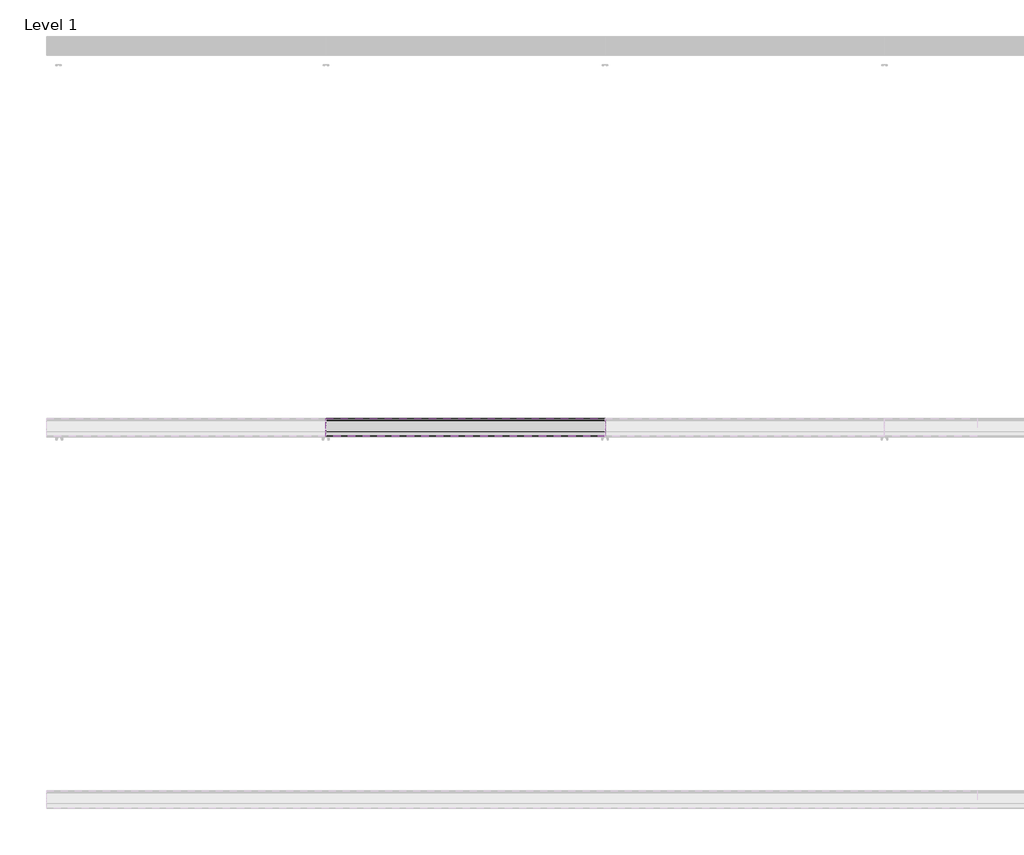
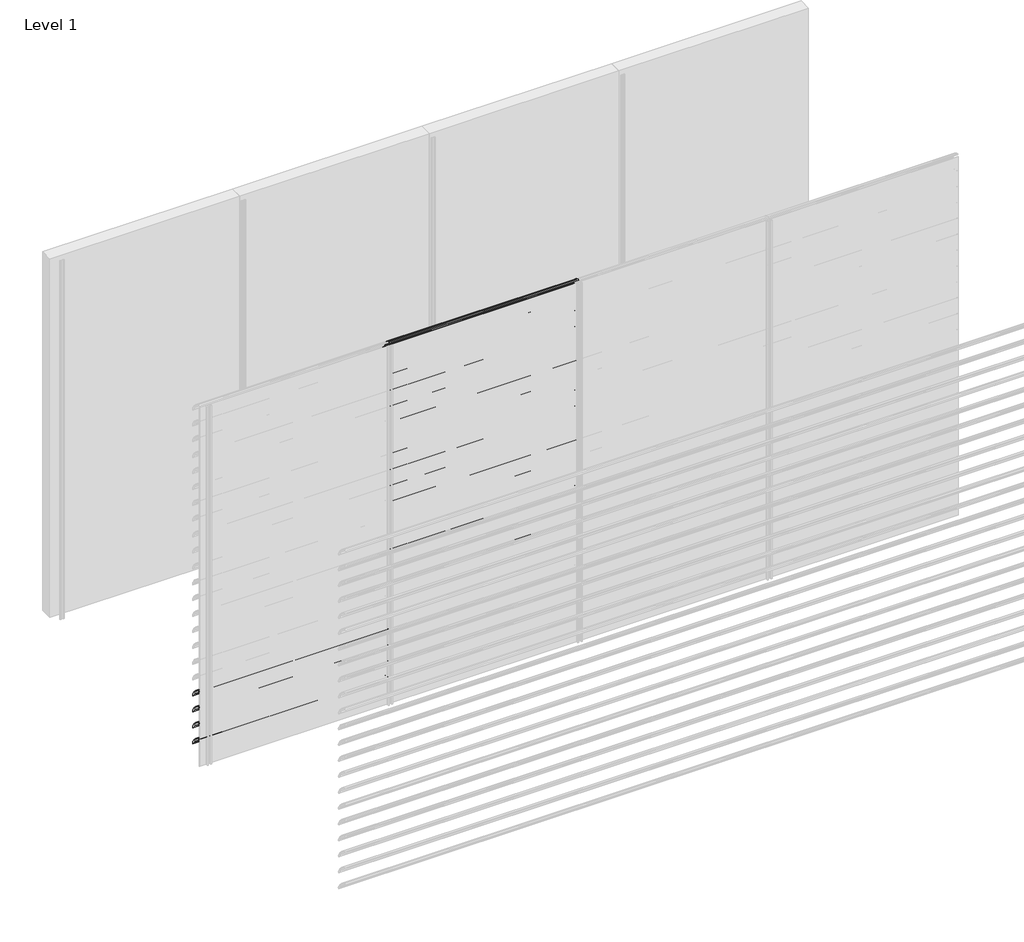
# One storey, part 49 of 57: 20 proxies.
"""IFC4 building model written with IfcOpenShell, lengths in millimetres."""

from ifc_helpers import new_model, si_unit, point, frame, frame_2d, origin, place, context, project, spatial, polyline, circle_curve, trimmed, segment, composite_curve, outline, extrude, element, save

model = new_model("IFC4")

# Units and contexts
model_context = context("Model", 3, world=origin())
ifc_project = project(units=[si_unit("LENGTHUNIT", "METRE", prefix="MILLI")], contexts=[model_context])

# Site, building, storey
site = spatial("IfcSite", under=ifc_project)
building = spatial("IfcBuilding", under=site)
storey = spatial("IfcBuildingStorey", under=building, Name="Level 1", Elevation=0.0)

# Proxies
placement = place(None, origin())
element("IfcBuildingElementProxy", 1, Name="Wall Sweeps", at=placement, inside=storey, context=model_context, shape_type="SweptSolid", body=[
    extrude(outline(composite_curve([segment(trimmed(circle_curve(frame_2d((-5993.7822526, 622.4913792)), 4.2177474), [point((-5989.6985606, 623.5462976))], [point((-5993.7822526, 626.7091266))], False, "CARTESIAN"), True, "CONTINUOUS"), segment(trimmed(circle_curve(frame_2d((-6018.7150834, 524.2536312)), 105.4456002), [point((-5993.7822526, 626.7091266))], [point((-5971.7914298, 618.6832099))], False, "CARTESIAN"), True, "CONTINUOUS"), segment(trimmed(circle_curve(frame_2d((-6061.7199745, 470.0352476)), 173.7335887), [point((-5971.7914298, 618.6832099))], [point((-5913.0720121, 559.9637922))], False, "CARTESIAN"), True, "CONTINUOUS"), segment(trimmed(circle_curve(frame_2d((-6004.9297178, 508.1860314)), 105.4456002), [point((-5913.0720121, 559.9637922))], [point((-5903.6249616, 537.4455765))], False, "CARTESIAN"), True, "CONTINUOUS"), segment(trimmed(circle_curve(frame_2d((-5907.809737, 536.3307305)), 4.3307305), [point((-5903.6249616, 537.4455765))], [point((-5909.0769196, 532.189538))], False, "CARTESIAN"), True, "CONTINUOUS"), segment(polyline([(-5909.0769196, 532.189538), (-5934.7401984, 556.9722783)]), True, "CONTINUOUS"), segment(trimmed(circle_curve(frame_2d((-5931.3879574, 559.2977626)), 4.079877), [point((-5934.7401984, 556.9722783))], [point((-5930.7310597, 563.3244091))], False, "CARTESIAN"), True, "CONTINUOUS"), segment(trimmed(circle_curve(frame_2d((-6014.6665585, 541.2544323)), 86.7885467), [point((-5930.7310597, 563.3244091))], [point((-5942.3028351, 589.1683485))], True, "CARTESIAN"), True, "CONTINUOUS"), segment(polyline([(-5942.3028351, 589.1683485), (-5940.7230099, 591.9046861)]), True, "CONTINUOUS"), segment(trimmed(circle_curve(frame_2d((-6061.7199745, 470.0352476)), 171.7335887), [point((-5940.7230099, 591.9046861))], [point((-5972.7555872, 616.9289618))], True, "CARTESIAN"), True, "CONTINUOUS"), segment(trimmed(circle_curve(frame_2d((-6018.7150834, 524.2536312)), 103.4456002), [point((-5972.7555872, 616.9289618))], [point((-5989.6985606, 623.5462976))], True, "CARTESIAN"), True, "CONTINUOUS")], self_intersect=False)), frame((0.0, 0.0, 0.0), z_axis=(1.0, 0.0, 0.0), x_axis=(0.0, 1.0, 0.0)), (0.0, 0.0, 1.0), 1500.0),
])
element("IfcBuildingElementProxy", 2, Name="Wall Sweeps", at=placement, inside=storey, context=model_context, shape_type="SweptSolid", body=[
    extrude(outline(composite_curve([segment(trimmed(circle_curve(frame_2d((-5993.7822526, 489.4913792)), 4.2177474), [point((-5989.6985606, 490.5462976))], [point((-5993.7822526, 493.7091266))], False, "CARTESIAN"), True, "CONTINUOUS"), segment(trimmed(circle_curve(frame_2d((-6018.7150834, 391.2536312)), 105.4456002), [point((-5993.7822526, 493.7091266))], [point((-5971.7914298, 485.6832099))], False, "CARTESIAN"), True, "CONTINUOUS"), segment(trimmed(circle_curve(frame_2d((-6061.7199745, 337.0352476)), 173.7335887), [point((-5971.7914298, 485.6832099))], [point((-5913.0720121, 426.9637922))], False, "CARTESIAN"), True, "CONTINUOUS"), segment(trimmed(circle_curve(frame_2d((-6004.9297178, 375.1860314)), 105.4456002), [point((-5913.0720121, 426.9637922))], [point((-5903.6249616, 404.4455765))], False, "CARTESIAN"), True, "CONTINUOUS"), segment(trimmed(circle_curve(frame_2d((-5907.809737, 403.3307305)), 4.3307305), [point((-5903.6249616, 404.4455765))], [point((-5909.0769196, 399.189538))], False, "CARTESIAN"), True, "CONTINUOUS"), segment(polyline([(-5909.0769196, 399.189538), (-5934.7401984, 423.9722783)]), True, "CONTINUOUS"), segment(trimmed(circle_curve(frame_2d((-5931.3879574, 426.2977626)), 4.079877), [point((-5934.7401984, 423.9722783))], [point((-5930.7310597, 430.3244091))], False, "CARTESIAN"), True, "CONTINUOUS"), segment(trimmed(circle_curve(frame_2d((-6014.6665585, 408.2544323)), 86.7885467), [point((-5930.7310597, 430.3244091))], [point((-5942.3028351, 456.1683485))], True, "CARTESIAN"), True, "CONTINUOUS"), segment(polyline([(-5942.3028351, 456.1683485), (-5940.7230099, 458.9046861)]), True, "CONTINUOUS"), segment(trimmed(circle_curve(frame_2d((-6061.7199745, 337.0352476)), 171.7335887), [point((-5940.7230099, 458.9046861))], [point((-5972.7555872, 483.9289618))], True, "CARTESIAN"), True, "CONTINUOUS"), segment(trimmed(circle_curve(frame_2d((-6018.7150834, 391.2536312)), 103.4456002), [point((-5972.7555872, 483.9289618))], [point((-5989.6985606, 490.5462976))], True, "CARTESIAN"), True, "CONTINUOUS")], self_intersect=False)), frame((0.0, 0.0, 0.0), z_axis=(1.0, 0.0, 0.0), x_axis=(0.0, 1.0, 0.0)), (0.0, 0.0, 1.0), 1500.0),
])
element("IfcBuildingElementProxy", 3, Name="Wall Sweeps", at=placement, inside=storey, context=model_context, shape_type="SweptSolid", body=[
    extrude(outline(composite_curve([segment(trimmed(circle_curve(frame_2d((-5993.7822526, 356.4913792)), 4.2177474), [point((-5989.6985606, 357.5462976))], [point((-5993.7822526, 360.7091266))], False, "CARTESIAN"), True, "CONTINUOUS"), segment(trimmed(circle_curve(frame_2d((-6018.7150834, 258.2536312)), 105.4456002), [point((-5993.7822526, 360.7091266))], [point((-5971.7914298, 352.6832099))], False, "CARTESIAN"), True, "CONTINUOUS"), segment(trimmed(circle_curve(frame_2d((-6061.7199745, 204.0352476)), 173.7335887), [point((-5971.7914298, 352.6832099))], [point((-5913.0720121, 293.9637922))], False, "CARTESIAN"), True, "CONTINUOUS"), segment(trimmed(circle_curve(frame_2d((-6004.9297178, 242.1860314)), 105.4456002), [point((-5913.0720121, 293.9637922))], [point((-5903.6249616, 271.4455765))], False, "CARTESIAN"), True, "CONTINUOUS"), segment(trimmed(circle_curve(frame_2d((-5907.809737, 270.3307305)), 4.3307305), [point((-5903.6249616, 271.4455765))], [point((-5909.0769196, 266.189538))], False, "CARTESIAN"), True, "CONTINUOUS"), segment(polyline([(-5909.0769196, 266.189538), (-5934.7401984, 290.9722783)]), True, "CONTINUOUS"), segment(trimmed(circle_curve(frame_2d((-5931.3879574, 293.2977626)), 4.079877), [point((-5934.7401984, 290.9722783))], [point((-5930.7310597, 297.3244091))], False, "CARTESIAN"), True, "CONTINUOUS"), segment(trimmed(circle_curve(frame_2d((-6014.6665585, 275.2544323)), 86.7885467), [point((-5930.7310597, 297.3244091))], [point((-5942.3028351, 323.1683485))], True, "CARTESIAN"), True, "CONTINUOUS"), segment(polyline([(-5942.3028351, 323.1683485), (-5940.7230099, 325.9046861)]), True, "CONTINUOUS"), segment(trimmed(circle_curve(frame_2d((-6061.7199745, 204.0352476)), 171.7335887), [point((-5940.7230099, 325.9046861))], [point((-5972.7555872, 350.9289618))], True, "CARTESIAN"), True, "CONTINUOUS"), segment(trimmed(circle_curve(frame_2d((-6018.7150834, 258.2536312)), 103.4456002), [point((-5972.7555872, 350.9289618))], [point((-5989.6985606, 357.5462976))], True, "CARTESIAN"), True, "CONTINUOUS")], self_intersect=False)), frame((0.0, 0.0, 0.0), z_axis=(1.0, 0.0, 0.0), x_axis=(0.0, 1.0, 0.0)), (0.0, 0.0, 1.0), 1500.0),
])
element("IfcBuildingElementProxy", 4, Name="Wall Sweeps", at=placement, inside=storey, context=model_context, shape_type="SweptSolid", body=[
    extrude(outline(composite_curve([segment(trimmed(circle_curve(frame_2d((-5993.7822526, 223.4913792)), 4.2177474), [point((-5989.6985606, 224.5462976))], [point((-5993.7822526, 227.7091266))], False, "CARTESIAN"), True, "CONTINUOUS"), segment(trimmed(circle_curve(frame_2d((-6018.7150834, 125.2536312)), 105.4456002), [point((-5993.7822526, 227.7091266))], [point((-5971.7914298, 219.6832099))], False, "CARTESIAN"), True, "CONTINUOUS"), segment(trimmed(circle_curve(frame_2d((-6061.7199745, 71.0352476)), 173.7335887), [point((-5971.7914298, 219.6832099))], [point((-5913.0720121, 160.9637922))], False, "CARTESIAN"), True, "CONTINUOUS"), segment(trimmed(circle_curve(frame_2d((-6004.9297178, 109.1860314)), 105.4456002), [point((-5913.0720121, 160.9637922))], [point((-5903.6249616, 138.4455765))], False, "CARTESIAN"), True, "CONTINUOUS"), segment(trimmed(circle_curve(frame_2d((-5907.809737, 137.3307305)), 4.3307305), [point((-5903.6249616, 138.4455765))], [point((-5909.0769196, 133.189538))], False, "CARTESIAN"), True, "CONTINUOUS"), segment(polyline([(-5909.0769196, 133.189538), (-5934.7401984, 157.9722783)]), True, "CONTINUOUS"), segment(trimmed(circle_curve(frame_2d((-5931.3879574, 160.2977626)), 4.079877), [point((-5934.7401984, 157.9722783))], [point((-5930.7310597, 164.3244091))], False, "CARTESIAN"), True, "CONTINUOUS"), segment(trimmed(circle_curve(frame_2d((-6014.6665585, 142.2544323)), 86.7885467), [point((-5930.7310597, 164.3244091))], [point((-5942.3028351, 190.1683485))], True, "CARTESIAN"), True, "CONTINUOUS"), segment(polyline([(-5942.3028351, 190.1683485), (-5940.7230099, 192.9046861)]), True, "CONTINUOUS"), segment(trimmed(circle_curve(frame_2d((-6061.7199745, 71.0352476)), 171.7335887), [point((-5940.7230099, 192.9046861))], [point((-5972.7555872, 217.9289618))], True, "CARTESIAN"), True, "CONTINUOUS"), segment(trimmed(circle_curve(frame_2d((-6018.7150834, 125.2536312)), 103.4456002), [point((-5972.7555872, 217.9289618))], [point((-5989.6985606, 224.5462976))], True, "CARTESIAN"), True, "CONTINUOUS")], self_intersect=False)), frame((0.0, 0.0, 0.0), z_axis=(1.0, 0.0, 0.0), x_axis=(0.0, 1.0, 0.0)), (0.0, 0.0, 1.0), 1500.0),
])
element("IfcBuildingElementProxy", 5, Name="Wall Sweeps", at=placement, inside=storey, context=model_context, shape_type="SweptSolid", body=[
    extrude(outline(composite_curve([segment(trimmed(circle_curve(frame_2d((-5993.7822526, 3016.4913792)), 4.2177474), [point((-5989.6985606, 3017.5462976))], [point((-5993.7822526, 3020.7091266))], False, "CARTESIAN"), True, "CONTINUOUS"), segment(trimmed(circle_curve(frame_2d((-6018.7150834, 2918.2536312)), 105.4456002), [point((-5993.7822526, 3020.7091266))], [point((-5971.7914298, 3012.6832099))], False, "CARTESIAN"), True, "CONTINUOUS"), segment(trimmed(circle_curve(frame_2d((-6061.7199745, 2864.0352476)), 173.7335887), [point((-5971.7914298, 3012.6832099))], [point((-5913.0720121, 2953.9637922))], False, "CARTESIAN"), True, "CONTINUOUS"), segment(trimmed(circle_curve(frame_2d((-6004.9297178, 2902.1860314)), 105.4456002), [point((-5913.0720121, 2953.9637922))], [point((-5903.6249616, 2931.4455765))], False, "CARTESIAN"), True, "CONTINUOUS"), segment(trimmed(circle_curve(frame_2d((-5907.809737, 2930.3307305)), 4.3307305), [point((-5903.6249616, 2931.4455765))], [point((-5909.0769196, 2926.189538))], False, "CARTESIAN"), True, "CONTINUOUS"), segment(polyline([(-5909.0769196, 2926.189538), (-5934.7401984, 2950.9722783)]), True, "CONTINUOUS"), segment(trimmed(circle_curve(frame_2d((-5931.3879574, 2953.2977626)), 4.079877), [point((-5934.7401984, 2950.9722783))], [point((-5930.7310597, 2957.3244091))], False, "CARTESIAN"), True, "CONTINUOUS"), segment(trimmed(circle_curve(frame_2d((-6014.6665585, 2935.2544323)), 86.7885467), [point((-5930.7310597, 2957.3244091))], [point((-5942.3028351, 2983.1683485))], True, "CARTESIAN"), True, "CONTINUOUS"), segment(polyline([(-5942.3028351, 2983.1683485), (-5940.7230099, 2985.9046861)]), True, "CONTINUOUS"), segment(trimmed(circle_curve(frame_2d((-6061.7199745, 2864.0352476)), 171.7335887), [point((-5940.7230099, 2985.9046861))], [point((-5972.7555872, 3010.9289618))], True, "CARTESIAN"), True, "CONTINUOUS"), segment(trimmed(circle_curve(frame_2d((-6018.7150834, 2918.2536312)), 103.4456002), [point((-5972.7555872, 3010.9289618))], [point((-5989.6985606, 3017.5462976))], True, "CARTESIAN"), True, "CONTINUOUS")], self_intersect=False)), frame((1500.0, 0.0, 0.0), z_axis=(1.0, 0.0, 0.0), x_axis=(0.0, 1.0, 0.0)), (0.0, 0.0, 1.0), 1500.0),
])
element("IfcBuildingElementProxy", 6, Name="Wall Sweeps", at=placement, inside=storey, context=model_context, shape_type="SweptSolid", body=[
    extrude(outline(composite_curve([segment(trimmed(circle_curve(frame_2d((-5993.7822526, 2883.4913792)), 4.2177474), [point((-5989.6985606, 2884.5462976))], [point((-5993.7822526, 2887.7091266))], False, "CARTESIAN"), True, "CONTINUOUS"), segment(trimmed(circle_curve(frame_2d((-6018.7150834, 2785.2536312)), 105.4456002), [point((-5993.7822526, 2887.7091266))], [point((-5971.7914298, 2879.6832099))], False, "CARTESIAN"), True, "CONTINUOUS"), segment(trimmed(circle_curve(frame_2d((-6061.7199745, 2731.0352476)), 173.7335887), [point((-5971.7914298, 2879.6832099))], [point((-5913.0720121, 2820.9637922))], False, "CARTESIAN"), True, "CONTINUOUS"), segment(trimmed(circle_curve(frame_2d((-6004.9297178, 2769.1860314)), 105.4456002), [point((-5913.0720121, 2820.9637922))], [point((-5903.6249616, 2798.4455765))], False, "CARTESIAN"), True, "CONTINUOUS"), segment(trimmed(circle_curve(frame_2d((-5907.809737, 2797.3307305)), 4.3307305), [point((-5903.6249616, 2798.4455765))], [point((-5909.0769196, 2793.189538))], False, "CARTESIAN"), True, "CONTINUOUS"), segment(polyline([(-5909.0769196, 2793.189538), (-5934.7401984, 2817.9722783)]), True, "CONTINUOUS"), segment(trimmed(circle_curve(frame_2d((-5931.3879574, 2820.2977626)), 4.079877), [point((-5934.7401984, 2817.9722783))], [point((-5930.7310597, 2824.3244091))], False, "CARTESIAN"), True, "CONTINUOUS"), segment(trimmed(circle_curve(frame_2d((-6014.6665585, 2802.2544323)), 86.7885467), [point((-5930.7310597, 2824.3244091))], [point((-5942.3028351, 2850.1683485))], True, "CARTESIAN"), True, "CONTINUOUS"), segment(polyline([(-5942.3028351, 2850.1683485), (-5940.7230099, 2852.9046861)]), True, "CONTINUOUS"), segment(trimmed(circle_curve(frame_2d((-6061.7199745, 2731.0352476)), 171.7335887), [point((-5940.7230099, 2852.9046861))], [point((-5972.7555872, 2877.9289618))], True, "CARTESIAN"), True, "CONTINUOUS"), segment(trimmed(circle_curve(frame_2d((-6018.7150834, 2785.2536312)), 103.4456002), [point((-5972.7555872, 2877.9289618))], [point((-5989.6985606, 2884.5462976))], True, "CARTESIAN"), True, "CONTINUOUS")], self_intersect=False)), frame((1500.0, 0.0, 0.0), z_axis=(1.0, 0.0, 0.0), x_axis=(0.0, 1.0, 0.0)), (0.0, 0.0, 1.0), 1500.0),
])
element("IfcBuildingElementProxy", 7, Name="Wall Sweeps", at=placement, inside=storey, context=model_context, shape_type="SweptSolid", body=[
    extrude(outline(composite_curve([segment(trimmed(circle_curve(frame_2d((-5993.7822526, 2750.4913792)), 4.2177474), [point((-5989.6985606, 2751.5462976))], [point((-5993.7822526, 2754.7091266))], False, "CARTESIAN"), True, "CONTINUOUS"), segment(trimmed(circle_curve(frame_2d((-6018.7150834, 2652.2536312)), 105.4456002), [point((-5993.7822526, 2754.7091266))], [point((-5971.7914298, 2746.6832099))], False, "CARTESIAN"), True, "CONTINUOUS"), segment(trimmed(circle_curve(frame_2d((-6061.7199745, 2598.0352476)), 173.7335887), [point((-5971.7914298, 2746.6832099))], [point((-5913.0720121, 2687.9637922))], False, "CARTESIAN"), True, "CONTINUOUS"), segment(trimmed(circle_curve(frame_2d((-6004.9297178, 2636.1860314)), 105.4456002), [point((-5913.0720121, 2687.9637922))], [point((-5903.6249616, 2665.4455765))], False, "CARTESIAN"), True, "CONTINUOUS"), segment(trimmed(circle_curve(frame_2d((-5907.809737, 2664.3307305)), 4.3307305), [point((-5903.6249616, 2665.4455765))], [point((-5909.0769196, 2660.189538))], False, "CARTESIAN"), True, "CONTINUOUS"), segment(polyline([(-5909.0769196, 2660.189538), (-5934.7401984, 2684.9722783)]), True, "CONTINUOUS"), segment(trimmed(circle_curve(frame_2d((-5931.3879574, 2687.2977626)), 4.079877), [point((-5934.7401984, 2684.9722783))], [point((-5930.7310597, 2691.3244091))], False, "CARTESIAN"), True, "CONTINUOUS"), segment(trimmed(circle_curve(frame_2d((-6014.6665585, 2669.2544323)), 86.7885467), [point((-5930.7310597, 2691.3244091))], [point((-5942.3028351, 2717.1683485))], True, "CARTESIAN"), True, "CONTINUOUS"), segment(polyline([(-5942.3028351, 2717.1683485), (-5940.7230099, 2719.9046861)]), True, "CONTINUOUS"), segment(trimmed(circle_curve(frame_2d((-6061.7199745, 2598.0352476)), 171.7335887), [point((-5940.7230099, 2719.9046861))], [point((-5972.7555872, 2744.9289618))], True, "CARTESIAN"), True, "CONTINUOUS"), segment(trimmed(circle_curve(frame_2d((-6018.7150834, 2652.2536312)), 103.4456002), [point((-5972.7555872, 2744.9289618))], [point((-5989.6985606, 2751.5462976))], True, "CARTESIAN"), True, "CONTINUOUS")], self_intersect=False)), frame((1500.0, 0.0, 0.0), z_axis=(1.0, 0.0, 0.0), x_axis=(0.0, 1.0, 0.0)), (0.0, 0.0, 1.0), 1500.0),
])
element("IfcBuildingElementProxy", 8, Name="Wall Sweeps", at=placement, inside=storey, context=model_context, shape_type="SweptSolid", body=[
    extrude(outline(composite_curve([segment(trimmed(circle_curve(frame_2d((-5993.7822526, 2617.4913792)), 4.2177474), [point((-5989.6985606, 2618.5462976))], [point((-5993.7822526, 2621.7091266))], False, "CARTESIAN"), True, "CONTINUOUS"), segment(trimmed(circle_curve(frame_2d((-6018.7150834, 2519.2536312)), 105.4456002), [point((-5993.7822526, 2621.7091266))], [point((-5971.7914298, 2613.6832099))], False, "CARTESIAN"), True, "CONTINUOUS"), segment(trimmed(circle_curve(frame_2d((-6061.7199745, 2465.0352476)), 173.7335887), [point((-5971.7914298, 2613.6832099))], [point((-5913.0720121, 2554.9637922))], False, "CARTESIAN"), True, "CONTINUOUS"), segment(trimmed(circle_curve(frame_2d((-6004.9297178, 2503.1860314)), 105.4456002), [point((-5913.0720121, 2554.9637922))], [point((-5903.6249616, 2532.4455765))], False, "CARTESIAN"), True, "CONTINUOUS"), segment(trimmed(circle_curve(frame_2d((-5907.809737, 2531.3307305)), 4.3307305), [point((-5903.6249616, 2532.4455765))], [point((-5909.0769196, 2527.189538))], False, "CARTESIAN"), True, "CONTINUOUS"), segment(polyline([(-5909.0769196, 2527.189538), (-5934.7401984, 2551.9722783)]), True, "CONTINUOUS"), segment(trimmed(circle_curve(frame_2d((-5931.3879574, 2554.2977626)), 4.079877), [point((-5934.7401984, 2551.9722783))], [point((-5930.7310597, 2558.3244091))], False, "CARTESIAN"), True, "CONTINUOUS"), segment(trimmed(circle_curve(frame_2d((-6014.6665585, 2536.2544323)), 86.7885467), [point((-5930.7310597, 2558.3244091))], [point((-5942.3028351, 2584.1683485))], True, "CARTESIAN"), True, "CONTINUOUS"), segment(polyline([(-5942.3028351, 2584.1683485), (-5940.7230099, 2586.9046861)]), True, "CONTINUOUS"), segment(trimmed(circle_curve(frame_2d((-6061.7199745, 2465.0352476)), 171.7335887), [point((-5940.7230099, 2586.9046861))], [point((-5972.7555872, 2611.9289618))], True, "CARTESIAN"), True, "CONTINUOUS"), segment(trimmed(circle_curve(frame_2d((-6018.7150834, 2519.2536312)), 103.4456002), [point((-5972.7555872, 2611.9289618))], [point((-5989.6985606, 2618.5462976))], True, "CARTESIAN"), True, "CONTINUOUS")], self_intersect=False)), frame((1500.0, 0.0, 0.0), z_axis=(1.0, 0.0, 0.0), x_axis=(0.0, 1.0, 0.0)), (0.0, 0.0, 1.0), 1500.0),
])
element("IfcBuildingElementProxy", 9, Name="Wall Sweeps", at=placement, inside=storey, context=model_context, shape_type="SweptSolid", body=[
    extrude(outline(composite_curve([segment(trimmed(circle_curve(frame_2d((-5993.7822526, 2484.4913792)), 4.2177474), [point((-5989.6985606, 2485.5462976))], [point((-5993.7822526, 2488.7091266))], False, "CARTESIAN"), True, "CONTINUOUS"), segment(trimmed(circle_curve(frame_2d((-6018.7150834, 2386.2536312)), 105.4456002), [point((-5993.7822526, 2488.7091266))], [point((-5971.7914298, 2480.6832099))], False, "CARTESIAN"), True, "CONTINUOUS"), segment(trimmed(circle_curve(frame_2d((-6061.7199745, 2332.0352476)), 173.7335887), [point((-5971.7914298, 2480.6832099))], [point((-5913.0720121, 2421.9637922))], False, "CARTESIAN"), True, "CONTINUOUS"), segment(trimmed(circle_curve(frame_2d((-6004.9297178, 2370.1860314)), 105.4456002), [point((-5913.0720121, 2421.9637922))], [point((-5903.6249616, 2399.4455765))], False, "CARTESIAN"), True, "CONTINUOUS"), segment(trimmed(circle_curve(frame_2d((-5907.809737, 2398.3307305)), 4.3307305), [point((-5903.6249616, 2399.4455765))], [point((-5909.0769196, 2394.189538))], False, "CARTESIAN"), True, "CONTINUOUS"), segment(polyline([(-5909.0769196, 2394.189538), (-5934.7401984, 2418.9722783)]), True, "CONTINUOUS"), segment(trimmed(circle_curve(frame_2d((-5931.3879574, 2421.2977626)), 4.079877), [point((-5934.7401984, 2418.9722783))], [point((-5930.7310597, 2425.3244091))], False, "CARTESIAN"), True, "CONTINUOUS"), segment(trimmed(circle_curve(frame_2d((-6014.6665585, 2403.2544323)), 86.7885467), [point((-5930.7310597, 2425.3244091))], [point((-5942.3028351, 2451.1683485))], True, "CARTESIAN"), True, "CONTINUOUS"), segment(polyline([(-5942.3028351, 2451.1683485), (-5940.7230099, 2453.9046861)]), True, "CONTINUOUS"), segment(trimmed(circle_curve(frame_2d((-6061.7199745, 2332.0352476)), 171.7335887), [point((-5940.7230099, 2453.9046861))], [point((-5972.7555872, 2478.9289618))], True, "CARTESIAN"), True, "CONTINUOUS"), segment(trimmed(circle_curve(frame_2d((-6018.7150834, 2386.2536312)), 103.4456002), [point((-5972.7555872, 2478.9289618))], [point((-5989.6985606, 2485.5462976))], True, "CARTESIAN"), True, "CONTINUOUS")], self_intersect=False)), frame((1500.0, 0.0, 0.0), z_axis=(1.0, 0.0, 0.0), x_axis=(0.0, 1.0, 0.0)), (0.0, 0.0, 1.0), 1500.0),
])
element("IfcBuildingElementProxy", 10, Name="Wall Sweeps", at=placement, inside=storey, context=model_context, shape_type="SweptSolid", body=[
    extrude(outline(composite_curve([segment(trimmed(circle_curve(frame_2d((-5993.7822526, 2351.4913792)), 4.2177474), [point((-5989.6985606, 2352.5462976))], [point((-5993.7822526, 2355.7091266))], False, "CARTESIAN"), True, "CONTINUOUS"), segment(trimmed(circle_curve(frame_2d((-6018.7150834, 2253.2536312)), 105.4456002), [point((-5993.7822526, 2355.7091266))], [point((-5971.7914298, 2347.6832099))], False, "CARTESIAN"), True, "CONTINUOUS"), segment(trimmed(circle_curve(frame_2d((-6061.7199745, 2199.0352476)), 173.7335887), [point((-5971.7914298, 2347.6832099))], [point((-5913.0720121, 2288.9637922))], False, "CARTESIAN"), True, "CONTINUOUS"), segment(trimmed(circle_curve(frame_2d((-6004.9297178, 2237.1860314)), 105.4456002), [point((-5913.0720121, 2288.9637922))], [point((-5903.6249616, 2266.4455765))], False, "CARTESIAN"), True, "CONTINUOUS"), segment(trimmed(circle_curve(frame_2d((-5907.809737, 2265.3307305)), 4.3307305), [point((-5903.6249616, 2266.4455765))], [point((-5909.0769196, 2261.189538))], False, "CARTESIAN"), True, "CONTINUOUS"), segment(polyline([(-5909.0769196, 2261.189538), (-5934.7401984, 2285.9722783)]), True, "CONTINUOUS"), segment(trimmed(circle_curve(frame_2d((-5931.3879574, 2288.2977626)), 4.079877), [point((-5934.7401984, 2285.9722783))], [point((-5930.7310597, 2292.3244091))], False, "CARTESIAN"), True, "CONTINUOUS"), segment(trimmed(circle_curve(frame_2d((-6014.6665585, 2270.2544323)), 86.7885467), [point((-5930.7310597, 2292.3244091))], [point((-5942.3028351, 2318.1683485))], True, "CARTESIAN"), True, "CONTINUOUS"), segment(polyline([(-5942.3028351, 2318.1683485), (-5940.7230099, 2320.9046861)]), True, "CONTINUOUS"), segment(trimmed(circle_curve(frame_2d((-6061.7199745, 2199.0352476)), 171.7335887), [point((-5940.7230099, 2320.9046861))], [point((-5972.7555872, 2345.9289618))], True, "CARTESIAN"), True, "CONTINUOUS"), segment(trimmed(circle_curve(frame_2d((-6018.7150834, 2253.2536312)), 103.4456002), [point((-5972.7555872, 2345.9289618))], [point((-5989.6985606, 2352.5462976))], True, "CARTESIAN"), True, "CONTINUOUS")], self_intersect=False)), frame((1500.0, 0.0, 0.0), z_axis=(1.0, 0.0, 0.0), x_axis=(0.0, 1.0, 0.0)), (0.0, 0.0, 1.0), 1500.0),
])
element("IfcBuildingElementProxy", 11, Name="Wall Sweeps", at=placement, inside=storey, context=model_context, shape_type="SweptSolid", body=[
    extrude(outline(composite_curve([segment(trimmed(circle_curve(frame_2d((-5993.7822526, 2218.4913792)), 4.2177474), [point((-5989.6985606, 2219.5462976))], [point((-5993.7822526, 2222.7091266))], False, "CARTESIAN"), True, "CONTINUOUS"), segment(trimmed(circle_curve(frame_2d((-6018.7150834, 2120.2536312)), 105.4456002), [point((-5993.7822526, 2222.7091266))], [point((-5971.7914298, 2214.6832099))], False, "CARTESIAN"), True, "CONTINUOUS"), segment(trimmed(circle_curve(frame_2d((-6061.7199745, 2066.0352476)), 173.7335887), [point((-5971.7914298, 2214.6832099))], [point((-5913.0720121, 2155.9637922))], False, "CARTESIAN"), True, "CONTINUOUS"), segment(trimmed(circle_curve(frame_2d((-6004.9297178, 2104.1860314)), 105.4456002), [point((-5913.0720121, 2155.9637922))], [point((-5903.6249616, 2133.4455765))], False, "CARTESIAN"), True, "CONTINUOUS"), segment(trimmed(circle_curve(frame_2d((-5907.809737, 2132.3307305)), 4.3307305), [point((-5903.6249616, 2133.4455765))], [point((-5909.0769196, 2128.189538))], False, "CARTESIAN"), True, "CONTINUOUS"), segment(polyline([(-5909.0769196, 2128.189538), (-5934.7401984, 2152.9722783)]), True, "CONTINUOUS"), segment(trimmed(circle_curve(frame_2d((-5931.3879574, 2155.2977626)), 4.079877), [point((-5934.7401984, 2152.9722783))], [point((-5930.7310597, 2159.3244091))], False, "CARTESIAN"), True, "CONTINUOUS"), segment(trimmed(circle_curve(frame_2d((-6014.6665585, 2137.2544323)), 86.7885467), [point((-5930.7310597, 2159.3244091))], [point((-5942.3028351, 2185.1683485))], True, "CARTESIAN"), True, "CONTINUOUS"), segment(polyline([(-5942.3028351, 2185.1683485), (-5940.7230099, 2187.9046861)]), True, "CONTINUOUS"), segment(trimmed(circle_curve(frame_2d((-6061.7199745, 2066.0352476)), 171.7335887), [point((-5940.7230099, 2187.9046861))], [point((-5972.7555872, 2212.9289618))], True, "CARTESIAN"), True, "CONTINUOUS"), segment(trimmed(circle_curve(frame_2d((-6018.7150834, 2120.2536312)), 103.4456002), [point((-5972.7555872, 2212.9289618))], [point((-5989.6985606, 2219.5462976))], True, "CARTESIAN"), True, "CONTINUOUS")], self_intersect=False)), frame((1500.0, 0.0, 0.0), z_axis=(1.0, 0.0, 0.0), x_axis=(0.0, 1.0, 0.0)), (0.0, 0.0, 1.0), 1500.0),
])
element("IfcBuildingElementProxy", 12, Name="Wall Sweeps", at=placement, inside=storey, context=model_context, shape_type="SweptSolid", body=[
    extrude(outline(composite_curve([segment(trimmed(circle_curve(frame_2d((-5993.7822526, 2085.4913792)), 4.2177474), [point((-5989.6985606, 2086.5462976))], [point((-5993.7822526, 2089.7091266))], False, "CARTESIAN"), True, "CONTINUOUS"), segment(trimmed(circle_curve(frame_2d((-6018.7150834, 1987.2536312)), 105.4456002), [point((-5993.7822526, 2089.7091266))], [point((-5971.7914298, 2081.6832099))], False, "CARTESIAN"), True, "CONTINUOUS"), segment(trimmed(circle_curve(frame_2d((-6061.7199745, 1933.0352476)), 173.7335887), [point((-5971.7914298, 2081.6832099))], [point((-5913.0720121, 2022.9637922))], False, "CARTESIAN"), True, "CONTINUOUS"), segment(trimmed(circle_curve(frame_2d((-6004.9297178, 1971.1860314)), 105.4456002), [point((-5913.0720121, 2022.9637922))], [point((-5903.6249616, 2000.4455765))], False, "CARTESIAN"), True, "CONTINUOUS"), segment(trimmed(circle_curve(frame_2d((-5907.809737, 1999.3307305)), 4.3307305), [point((-5903.6249616, 2000.4455765))], [point((-5909.0769196, 1995.189538))], False, "CARTESIAN"), True, "CONTINUOUS"), segment(polyline([(-5909.0769196, 1995.189538), (-5934.7401984, 2019.9722783)]), True, "CONTINUOUS"), segment(trimmed(circle_curve(frame_2d((-5931.3879574, 2022.2977626)), 4.079877), [point((-5934.7401984, 2019.9722783))], [point((-5930.7310597, 2026.3244091))], False, "CARTESIAN"), True, "CONTINUOUS"), segment(trimmed(circle_curve(frame_2d((-6014.6665585, 2004.2544323)), 86.7885467), [point((-5930.7310597, 2026.3244091))], [point((-5942.3028351, 2052.1683485))], True, "CARTESIAN"), True, "CONTINUOUS"), segment(polyline([(-5942.3028351, 2052.1683485), (-5940.7230099, 2054.9046861)]), True, "CONTINUOUS"), segment(trimmed(circle_curve(frame_2d((-6061.7199745, 1933.0352476)), 171.7335887), [point((-5940.7230099, 2054.9046861))], [point((-5972.7555872, 2079.9289618))], True, "CARTESIAN"), True, "CONTINUOUS"), segment(trimmed(circle_curve(frame_2d((-6018.7150834, 1987.2536312)), 103.4456002), [point((-5972.7555872, 2079.9289618))], [point((-5989.6985606, 2086.5462976))], True, "CARTESIAN"), True, "CONTINUOUS")], self_intersect=False)), frame((1500.0, 0.0, 0.0), z_axis=(1.0, 0.0, 0.0), x_axis=(0.0, 1.0, 0.0)), (0.0, 0.0, 1.0), 1500.0),
])
element("IfcBuildingElementProxy", 13, Name="Wall Sweeps", at=placement, inside=storey, context=model_context, shape_type="SweptSolid", body=[
    extrude(outline(composite_curve([segment(trimmed(circle_curve(frame_2d((-5993.7822526, 1952.4913792)), 4.2177474), [point((-5989.6985606, 1953.5462976))], [point((-5993.7822526, 1956.7091266))], False, "CARTESIAN"), True, "CONTINUOUS"), segment(trimmed(circle_curve(frame_2d((-6018.7150834, 1854.2536312)), 105.4456002), [point((-5993.7822526, 1956.7091266))], [point((-5971.7914298, 1948.6832099))], False, "CARTESIAN"), True, "CONTINUOUS"), segment(trimmed(circle_curve(frame_2d((-6061.7199745, 1800.0352476)), 173.7335887), [point((-5971.7914298, 1948.6832099))], [point((-5913.0720121, 1889.9637922))], False, "CARTESIAN"), True, "CONTINUOUS"), segment(trimmed(circle_curve(frame_2d((-6004.9297178, 1838.1860314)), 105.4456002), [point((-5913.0720121, 1889.9637922))], [point((-5903.6249616, 1867.4455765))], False, "CARTESIAN"), True, "CONTINUOUS"), segment(trimmed(circle_curve(frame_2d((-5907.809737, 1866.3307305)), 4.3307305), [point((-5903.6249616, 1867.4455765))], [point((-5909.0769196, 1862.189538))], False, "CARTESIAN"), True, "CONTINUOUS"), segment(polyline([(-5909.0769196, 1862.189538), (-5934.7401984, 1886.9722783)]), True, "CONTINUOUS"), segment(trimmed(circle_curve(frame_2d((-5931.3879574, 1889.2977626)), 4.079877), [point((-5934.7401984, 1886.9722783))], [point((-5930.7310597, 1893.3244091))], False, "CARTESIAN"), True, "CONTINUOUS"), segment(trimmed(circle_curve(frame_2d((-6014.6665585, 1871.2544323)), 86.7885467), [point((-5930.7310597, 1893.3244091))], [point((-5942.3028351, 1919.1683485))], True, "CARTESIAN"), True, "CONTINUOUS"), segment(polyline([(-5942.3028351, 1919.1683485), (-5940.7230099, 1921.9046861)]), True, "CONTINUOUS"), segment(trimmed(circle_curve(frame_2d((-6061.7199745, 1800.0352476)), 171.7335887), [point((-5940.7230099, 1921.9046861))], [point((-5972.7555872, 1946.9289618))], True, "CARTESIAN"), True, "CONTINUOUS"), segment(trimmed(circle_curve(frame_2d((-6018.7150834, 1854.2536312)), 103.4456002), [point((-5972.7555872, 1946.9289618))], [point((-5989.6985606, 1953.5462976))], True, "CARTESIAN"), True, "CONTINUOUS")], self_intersect=False)), frame((1500.0, 0.0, 0.0), z_axis=(1.0, 0.0, 0.0), x_axis=(0.0, 1.0, 0.0)), (0.0, 0.0, 1.0), 1500.0),
])
element("IfcBuildingElementProxy", 14, Name="Wall Sweeps", at=placement, inside=storey, context=model_context, shape_type="SweptSolid", body=[
    extrude(outline(composite_curve([segment(trimmed(circle_curve(frame_2d((-5993.7822526, 1819.4913792)), 4.2177474), [point((-5989.6985606, 1820.5462976))], [point((-5993.7822526, 1823.7091266))], False, "CARTESIAN"), True, "CONTINUOUS"), segment(trimmed(circle_curve(frame_2d((-6018.7150834, 1721.2536312)), 105.4456002), [point((-5993.7822526, 1823.7091266))], [point((-5971.7914298, 1815.6832099))], False, "CARTESIAN"), True, "CONTINUOUS"), segment(trimmed(circle_curve(frame_2d((-6061.7199745, 1667.0352476)), 173.7335887), [point((-5971.7914298, 1815.6832099))], [point((-5913.0720121, 1756.9637922))], False, "CARTESIAN"), True, "CONTINUOUS"), segment(trimmed(circle_curve(frame_2d((-6004.9297178, 1705.1860314)), 105.4456002), [point((-5913.0720121, 1756.9637922))], [point((-5903.6249616, 1734.4455765))], False, "CARTESIAN"), True, "CONTINUOUS"), segment(trimmed(circle_curve(frame_2d((-5907.809737, 1733.3307305)), 4.3307305), [point((-5903.6249616, 1734.4455765))], [point((-5909.0769196, 1729.189538))], False, "CARTESIAN"), True, "CONTINUOUS"), segment(polyline([(-5909.0769196, 1729.189538), (-5934.7401984, 1753.9722783)]), True, "CONTINUOUS"), segment(trimmed(circle_curve(frame_2d((-5931.3879574, 1756.2977626)), 4.079877), [point((-5934.7401984, 1753.9722783))], [point((-5930.7310597, 1760.3244091))], False, "CARTESIAN"), True, "CONTINUOUS"), segment(trimmed(circle_curve(frame_2d((-6014.6665585, 1738.2544323)), 86.7885467), [point((-5930.7310597, 1760.3244091))], [point((-5942.3028351, 1786.1683485))], True, "CARTESIAN"), True, "CONTINUOUS"), segment(polyline([(-5942.3028351, 1786.1683485), (-5940.7230099, 1788.9046861)]), True, "CONTINUOUS"), segment(trimmed(circle_curve(frame_2d((-6061.7199745, 1667.0352476)), 171.7335887), [point((-5940.7230099, 1788.9046861))], [point((-5972.7555872, 1813.9289618))], True, "CARTESIAN"), True, "CONTINUOUS"), segment(trimmed(circle_curve(frame_2d((-6018.7150834, 1721.2536312)), 103.4456002), [point((-5972.7555872, 1813.9289618))], [point((-5989.6985606, 1820.5462976))], True, "CARTESIAN"), True, "CONTINUOUS")], self_intersect=False)), frame((1500.0, 0.0, 0.0), z_axis=(1.0, 0.0, 0.0), x_axis=(0.0, 1.0, 0.0)), (0.0, 0.0, 1.0), 1500.0),
])
element("IfcBuildingElementProxy", 15, Name="Wall Sweeps", at=placement, inside=storey, context=model_context, shape_type="SweptSolid", body=[
    extrude(outline(composite_curve([segment(trimmed(circle_curve(frame_2d((-5993.7822526, 1686.4913792)), 4.2177474), [point((-5989.6985606, 1687.5462976))], [point((-5993.7822526, 1690.7091266))], False, "CARTESIAN"), True, "CONTINUOUS"), segment(trimmed(circle_curve(frame_2d((-6018.7150834, 1588.2536312)), 105.4456002), [point((-5993.7822526, 1690.7091266))], [point((-5971.7914298, 1682.6832099))], False, "CARTESIAN"), True, "CONTINUOUS"), segment(trimmed(circle_curve(frame_2d((-6061.7199745, 1534.0352476)), 173.7335887), [point((-5971.7914298, 1682.6832099))], [point((-5913.0720121, 1623.9637922))], False, "CARTESIAN"), True, "CONTINUOUS"), segment(trimmed(circle_curve(frame_2d((-6004.9297178, 1572.1860314)), 105.4456002), [point((-5913.0720121, 1623.9637922))], [point((-5903.6249616, 1601.4455765))], False, "CARTESIAN"), True, "CONTINUOUS"), segment(trimmed(circle_curve(frame_2d((-5907.809737, 1600.3307305)), 4.3307305), [point((-5903.6249616, 1601.4455765))], [point((-5909.0769196, 1596.189538))], False, "CARTESIAN"), True, "CONTINUOUS"), segment(polyline([(-5909.0769196, 1596.189538), (-5934.7401984, 1620.9722783)]), True, "CONTINUOUS"), segment(trimmed(circle_curve(frame_2d((-5931.3879574, 1623.2977626)), 4.079877), [point((-5934.7401984, 1620.9722783))], [point((-5930.7310597, 1627.3244091))], False, "CARTESIAN"), True, "CONTINUOUS"), segment(trimmed(circle_curve(frame_2d((-6014.6665585, 1605.2544323)), 86.7885467), [point((-5930.7310597, 1627.3244091))], [point((-5942.3028351, 1653.1683485))], True, "CARTESIAN"), True, "CONTINUOUS"), segment(polyline([(-5942.3028351, 1653.1683485), (-5940.7230099, 1655.9046861)]), True, "CONTINUOUS"), segment(trimmed(circle_curve(frame_2d((-6061.7199745, 1534.0352476)), 171.7335887), [point((-5940.7230099, 1655.9046861))], [point((-5972.7555872, 1680.9289618))], True, "CARTESIAN"), True, "CONTINUOUS"), segment(trimmed(circle_curve(frame_2d((-6018.7150834, 1588.2536312)), 103.4456002), [point((-5972.7555872, 1680.9289618))], [point((-5989.6985606, 1687.5462976))], True, "CARTESIAN"), True, "CONTINUOUS")], self_intersect=False)), frame((1500.0, 0.0, 0.0), z_axis=(1.0, 0.0, 0.0), x_axis=(0.0, 1.0, 0.0)), (0.0, 0.0, 1.0), 1500.0),
])
element("IfcBuildingElementProxy", 16, Name="Wall Sweeps", at=placement, inside=storey, context=model_context, shape_type="SweptSolid", body=[
    extrude(outline(composite_curve([segment(trimmed(circle_curve(frame_2d((-5993.7822526, 1553.4913792)), 4.2177474), [point((-5989.6985606, 1554.5462976))], [point((-5993.7822526, 1557.7091266))], False, "CARTESIAN"), True, "CONTINUOUS"), segment(trimmed(circle_curve(frame_2d((-6018.7150834, 1455.2536312)), 105.4456002), [point((-5993.7822526, 1557.7091266))], [point((-5971.7914298, 1549.6832099))], False, "CARTESIAN"), True, "CONTINUOUS"), segment(trimmed(circle_curve(frame_2d((-6061.7199745, 1401.0352476)), 173.7335887), [point((-5971.7914298, 1549.6832099))], [point((-5913.0720121, 1490.9637922))], False, "CARTESIAN"), True, "CONTINUOUS"), segment(trimmed(circle_curve(frame_2d((-6004.9297178, 1439.1860314)), 105.4456002), [point((-5913.0720121, 1490.9637922))], [point((-5903.6249616, 1468.4455765))], False, "CARTESIAN"), True, "CONTINUOUS"), segment(trimmed(circle_curve(frame_2d((-5907.809737, 1467.3307305)), 4.3307305), [point((-5903.6249616, 1468.4455765))], [point((-5909.0769196, 1463.189538))], False, "CARTESIAN"), True, "CONTINUOUS"), segment(polyline([(-5909.0769196, 1463.189538), (-5934.7401984, 1487.9722783)]), True, "CONTINUOUS"), segment(trimmed(circle_curve(frame_2d((-5931.3879574, 1490.2977626)), 4.079877), [point((-5934.7401984, 1487.9722783))], [point((-5930.7310597, 1494.3244091))], False, "CARTESIAN"), True, "CONTINUOUS"), segment(trimmed(circle_curve(frame_2d((-6014.6665585, 1472.2544323)), 86.7885467), [point((-5930.7310597, 1494.3244091))], [point((-5942.3028351, 1520.1683485))], True, "CARTESIAN"), True, "CONTINUOUS"), segment(polyline([(-5942.3028351, 1520.1683485), (-5940.7230099, 1522.9046861)]), True, "CONTINUOUS"), segment(trimmed(circle_curve(frame_2d((-6061.7199745, 1401.0352476)), 171.7335887), [point((-5940.7230099, 1522.9046861))], [point((-5972.7555872, 1547.9289618))], True, "CARTESIAN"), True, "CONTINUOUS"), segment(trimmed(circle_curve(frame_2d((-6018.7150834, 1455.2536312)), 103.4456002), [point((-5972.7555872, 1547.9289618))], [point((-5989.6985606, 1554.5462976))], True, "CARTESIAN"), True, "CONTINUOUS")], self_intersect=False)), frame((1500.0, 0.0, 0.0), z_axis=(1.0, 0.0, 0.0), x_axis=(0.0, 1.0, 0.0)), (0.0, 0.0, 1.0), 1500.0),
])
element("IfcBuildingElementProxy", 17, Name="Wall Sweeps", at=placement, inside=storey, context=model_context, shape_type="SweptSolid", body=[
    extrude(outline(composite_curve([segment(trimmed(circle_curve(frame_2d((-5993.7822526, 1420.4913792)), 4.2177474), [point((-5989.6985606, 1421.5462976))], [point((-5993.7822526, 1424.7091266))], False, "CARTESIAN"), True, "CONTINUOUS"), segment(trimmed(circle_curve(frame_2d((-6018.7150834, 1322.2536312)), 105.4456002), [point((-5993.7822526, 1424.7091266))], [point((-5971.7914298, 1416.6832099))], False, "CARTESIAN"), True, "CONTINUOUS"), segment(trimmed(circle_curve(frame_2d((-6061.7199745, 1268.0352476)), 173.7335887), [point((-5971.7914298, 1416.6832099))], [point((-5913.0720121, 1357.9637922))], False, "CARTESIAN"), True, "CONTINUOUS"), segment(trimmed(circle_curve(frame_2d((-6004.9297178, 1306.1860314)), 105.4456002), [point((-5913.0720121, 1357.9637922))], [point((-5903.6249616, 1335.4455765))], False, "CARTESIAN"), True, "CONTINUOUS"), segment(trimmed(circle_curve(frame_2d((-5907.809737, 1334.3307305)), 4.3307305), [point((-5903.6249616, 1335.4455765))], [point((-5909.0769196, 1330.189538))], False, "CARTESIAN"), True, "CONTINUOUS"), segment(polyline([(-5909.0769196, 1330.189538), (-5934.7401984, 1354.9722783)]), True, "CONTINUOUS"), segment(trimmed(circle_curve(frame_2d((-5931.3879574, 1357.2977626)), 4.079877), [point((-5934.7401984, 1354.9722783))], [point((-5930.7310597, 1361.3244091))], False, "CARTESIAN"), True, "CONTINUOUS"), segment(trimmed(circle_curve(frame_2d((-6014.6665585, 1339.2544323)), 86.7885467), [point((-5930.7310597, 1361.3244091))], [point((-5942.3028351, 1387.1683485))], True, "CARTESIAN"), True, "CONTINUOUS"), segment(polyline([(-5942.3028351, 1387.1683485), (-5940.7230099, 1389.9046861)]), True, "CONTINUOUS"), segment(trimmed(circle_curve(frame_2d((-6061.7199745, 1268.0352476)), 171.7335887), [point((-5940.7230099, 1389.9046861))], [point((-5972.7555872, 1414.9289618))], True, "CARTESIAN"), True, "CONTINUOUS"), segment(trimmed(circle_curve(frame_2d((-6018.7150834, 1322.2536312)), 103.4456002), [point((-5972.7555872, 1414.9289618))], [point((-5989.6985606, 1421.5462976))], True, "CARTESIAN"), True, "CONTINUOUS")], self_intersect=False)), frame((1500.0, 0.0, 0.0), z_axis=(1.0, 0.0, 0.0), x_axis=(0.0, 1.0, 0.0)), (0.0, 0.0, 1.0), 1500.0),
])
element("IfcBuildingElementProxy", 18, Name="Wall Sweeps", at=placement, inside=storey, context=model_context, shape_type="SweptSolid", body=[
    extrude(outline(composite_curve([segment(trimmed(circle_curve(frame_2d((-5993.7822526, 1287.4913792)), 4.2177474), [point((-5989.6985606, 1288.5462976))], [point((-5993.7822526, 1291.7091266))], False, "CARTESIAN"), True, "CONTINUOUS"), segment(trimmed(circle_curve(frame_2d((-6018.7150834, 1189.2536312)), 105.4456002), [point((-5993.7822526, 1291.7091266))], [point((-5971.7914298, 1283.6832099))], False, "CARTESIAN"), True, "CONTINUOUS"), segment(trimmed(circle_curve(frame_2d((-6061.7199745, 1135.0352476)), 173.7335887), [point((-5971.7914298, 1283.6832099))], [point((-5913.0720121, 1224.9637922))], False, "CARTESIAN"), True, "CONTINUOUS"), segment(trimmed(circle_curve(frame_2d((-6004.9297178, 1173.1860314)), 105.4456002), [point((-5913.0720121, 1224.9637922))], [point((-5903.6249616, 1202.4455765))], False, "CARTESIAN"), True, "CONTINUOUS"), segment(trimmed(circle_curve(frame_2d((-5907.809737, 1201.3307305)), 4.3307305), [point((-5903.6249616, 1202.4455765))], [point((-5909.0769196, 1197.189538))], False, "CARTESIAN"), True, "CONTINUOUS"), segment(polyline([(-5909.0769196, 1197.189538), (-5934.7401984, 1221.9722783)]), True, "CONTINUOUS"), segment(trimmed(circle_curve(frame_2d((-5931.3879574, 1224.2977626)), 4.079877), [point((-5934.7401984, 1221.9722783))], [point((-5930.7310597, 1228.3244091))], False, "CARTESIAN"), True, "CONTINUOUS"), segment(trimmed(circle_curve(frame_2d((-6014.6665585, 1206.2544323)), 86.7885467), [point((-5930.7310597, 1228.3244091))], [point((-5942.3028351, 1254.1683485))], True, "CARTESIAN"), True, "CONTINUOUS"), segment(polyline([(-5942.3028351, 1254.1683485), (-5940.7230099, 1256.9046861)]), True, "CONTINUOUS"), segment(trimmed(circle_curve(frame_2d((-6061.7199745, 1135.0352476)), 171.7335887), [point((-5940.7230099, 1256.9046861))], [point((-5972.7555872, 1281.9289618))], True, "CARTESIAN"), True, "CONTINUOUS"), segment(trimmed(circle_curve(frame_2d((-6018.7150834, 1189.2536312)), 103.4456002), [point((-5972.7555872, 1281.9289618))], [point((-5989.6985606, 1288.5462976))], True, "CARTESIAN"), True, "CONTINUOUS")], self_intersect=False)), frame((1500.0, 0.0, 0.0), z_axis=(1.0, 0.0, 0.0), x_axis=(0.0, 1.0, 0.0)), (0.0, 0.0, 1.0), 1500.0),
])
element("IfcBuildingElementProxy", 19, Name="Wall Sweeps", at=placement, inside=storey, context=model_context, shape_type="SweptSolid", body=[
    extrude(outline(composite_curve([segment(trimmed(circle_curve(frame_2d((-5993.7822526, 1154.4913792)), 4.2177474), [point((-5989.6985606, 1155.5462976))], [point((-5993.7822526, 1158.7091266))], False, "CARTESIAN"), True, "CONTINUOUS"), segment(trimmed(circle_curve(frame_2d((-6018.7150834, 1056.2536312)), 105.4456002), [point((-5993.7822526, 1158.7091266))], [point((-5971.7914298, 1150.6832099))], False, "CARTESIAN"), True, "CONTINUOUS"), segment(trimmed(circle_curve(frame_2d((-6061.7199745, 1002.0352476)), 173.7335887), [point((-5971.7914298, 1150.6832099))], [point((-5913.0720121, 1091.9637922))], False, "CARTESIAN"), True, "CONTINUOUS"), segment(trimmed(circle_curve(frame_2d((-6004.9297178, 1040.1860314)), 105.4456002), [point((-5913.0720121, 1091.9637922))], [point((-5903.6249616, 1069.4455765))], False, "CARTESIAN"), True, "CONTINUOUS"), segment(trimmed(circle_curve(frame_2d((-5907.809737, 1068.3307305)), 4.3307305), [point((-5903.6249616, 1069.4455765))], [point((-5909.0769196, 1064.189538))], False, "CARTESIAN"), True, "CONTINUOUS"), segment(polyline([(-5909.0769196, 1064.189538), (-5934.7401984, 1088.9722783)]), True, "CONTINUOUS"), segment(trimmed(circle_curve(frame_2d((-5931.3879574, 1091.2977626)), 4.079877), [point((-5934.7401984, 1088.9722783))], [point((-5930.7310597, 1095.3244091))], False, "CARTESIAN"), True, "CONTINUOUS"), segment(trimmed(circle_curve(frame_2d((-6014.6665585, 1073.2544323)), 86.7885467), [point((-5930.7310597, 1095.3244091))], [point((-5942.3028351, 1121.1683485))], True, "CARTESIAN"), True, "CONTINUOUS"), segment(polyline([(-5942.3028351, 1121.1683485), (-5940.7230099, 1123.9046861)]), True, "CONTINUOUS"), segment(trimmed(circle_curve(frame_2d((-6061.7199745, 1002.0352476)), 171.7335887), [point((-5940.7230099, 1123.9046861))], [point((-5972.7555872, 1148.9289618))], True, "CARTESIAN"), True, "CONTINUOUS"), segment(trimmed(circle_curve(frame_2d((-6018.7150834, 1056.2536312)), 103.4456002), [point((-5972.7555872, 1148.9289618))], [point((-5989.6985606, 1155.5462976))], True, "CARTESIAN"), True, "CONTINUOUS")], self_intersect=False)), frame((1500.0, 0.0, 0.0), z_axis=(1.0, 0.0, 0.0), x_axis=(0.0, 1.0, 0.0)), (0.0, 0.0, 1.0), 1500.0),
])
element("IfcBuildingElementProxy", 20, Name="Wall Sweeps", at=placement, inside=storey, context=model_context, shape_type="SweptSolid", body=[
    extrude(outline(composite_curve([segment(trimmed(circle_curve(frame_2d((-5993.7822526, 1021.4913792)), 4.2177474), [point((-5989.6985606, 1022.5462976))], [point((-5993.7822526, 1025.7091266))], False, "CARTESIAN"), True, "CONTINUOUS"), segment(trimmed(circle_curve(frame_2d((-6018.7150834, 923.2536312)), 105.4456002), [point((-5993.7822526, 1025.7091266))], [point((-5971.7914298, 1017.6832099))], False, "CARTESIAN"), True, "CONTINUOUS"), segment(trimmed(circle_curve(frame_2d((-6061.7199745, 869.0352476)), 173.7335887), [point((-5971.7914298, 1017.6832099))], [point((-5913.0720121, 958.9637922))], False, "CARTESIAN"), True, "CONTINUOUS"), segment(trimmed(circle_curve(frame_2d((-6004.9297178, 907.1860314)), 105.4456002), [point((-5913.0720121, 958.9637922))], [point((-5903.6249616, 936.4455765))], False, "CARTESIAN"), True, "CONTINUOUS"), segment(trimmed(circle_curve(frame_2d((-5907.809737, 935.3307305)), 4.3307305), [point((-5903.6249616, 936.4455765))], [point((-5909.0769196, 931.189538))], False, "CARTESIAN"), True, "CONTINUOUS"), segment(polyline([(-5909.0769196, 931.189538), (-5934.7401984, 955.9722783)]), True, "CONTINUOUS"), segment(trimmed(circle_curve(frame_2d((-5931.3879574, 958.2977626)), 4.079877), [point((-5934.7401984, 955.9722783))], [point((-5930.7310597, 962.3244091))], False, "CARTESIAN"), True, "CONTINUOUS"), segment(trimmed(circle_curve(frame_2d((-6014.6665585, 940.2544323)), 86.7885467), [point((-5930.7310597, 962.3244091))], [point((-5942.3028351, 988.1683485))], True, "CARTESIAN"), True, "CONTINUOUS"), segment(polyline([(-5942.3028351, 988.1683485), (-5940.7230099, 990.9046861)]), True, "CONTINUOUS"), segment(trimmed(circle_curve(frame_2d((-6061.7199745, 869.0352476)), 171.7335887), [point((-5940.7230099, 990.9046861))], [point((-5972.7555872, 1015.9289618))], True, "CARTESIAN"), True, "CONTINUOUS"), segment(trimmed(circle_curve(frame_2d((-6018.7150834, 923.2536312)), 103.4456002), [point((-5972.7555872, 1015.9289618))], [point((-5989.6985606, 1022.5462976))], True, "CARTESIAN"), True, "CONTINUOUS")], self_intersect=False)), frame((1500.0, 0.0, 0.0), z_axis=(1.0, 0.0, 0.0), x_axis=(0.0, 1.0, 0.0)), (0.0, 0.0, 1.0), 1500.0),
])

save(model, "model.ifc")
